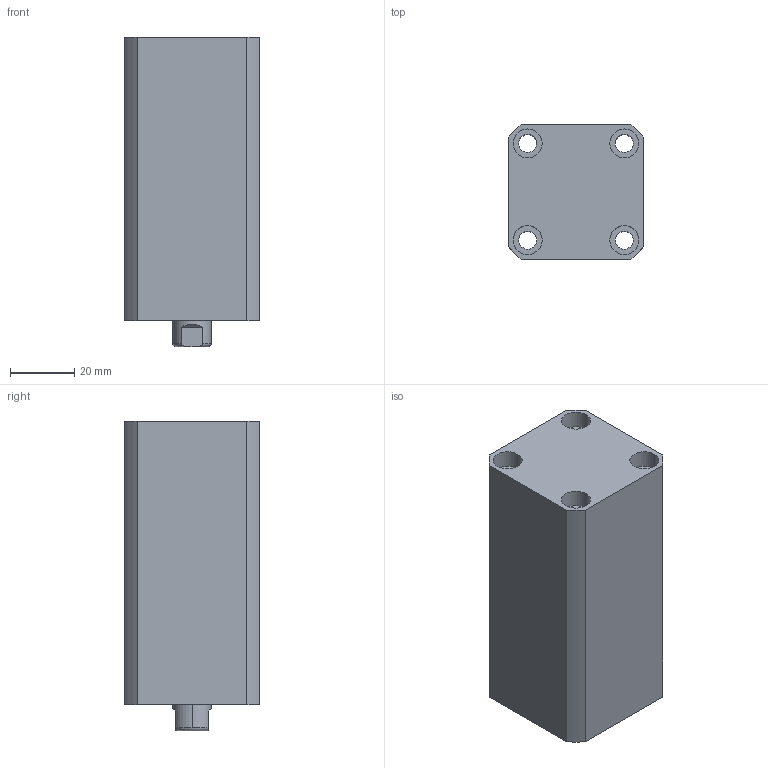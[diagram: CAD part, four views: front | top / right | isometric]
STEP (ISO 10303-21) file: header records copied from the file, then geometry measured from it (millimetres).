
FILE_DESCRIPTION (( 'STEP AP214' ), '1' );
FILE_NAME ('chtb-sd20x45n_asm.STEP', '2018-04-26T11:58:43', ( 'Windows' ), ( 'Microsoft' ), 'SwSTEP 2.0', 'SolidWorks 2015', '' );
FILE_SCHEMA (( 'AUTOMOTIVE_DESIGN' ));
Length unit declared in the file: millimetre
Products named in the file (4): QG; CHTB-SD20X45NHSG; CHTB-SD20X45NBT; chtb-sd20x45n_asm
Assembly tree (3 placements, depth 2):
  chtb-sd20x45n_asm
    CHTB-SD20X45NBT
    CHTB-SD20X45NHSG
    QG
Bounding box: 42 x 42 x 96 mm (x, y, z)
Volume: 130423.4 mm3; surface area: 39487.5 mm2
Topology: 3 solids, 3 shells, 192 faces, 499 edges, 330 vertices
Faces by surface type: cylinder 102, plane 36, torus 25, bspline 19, cone 10
Entity records: 10524 total; most frequent: CARTESIAN_POINT 5851, ORIENTED_EDGE 986, DIRECTION 903, EDGE_CURVE 493, AXIS2_PLACEMENT_3D 385, VERTEX_POINT 330, EDGE_LOOP 229, CIRCLE 206
